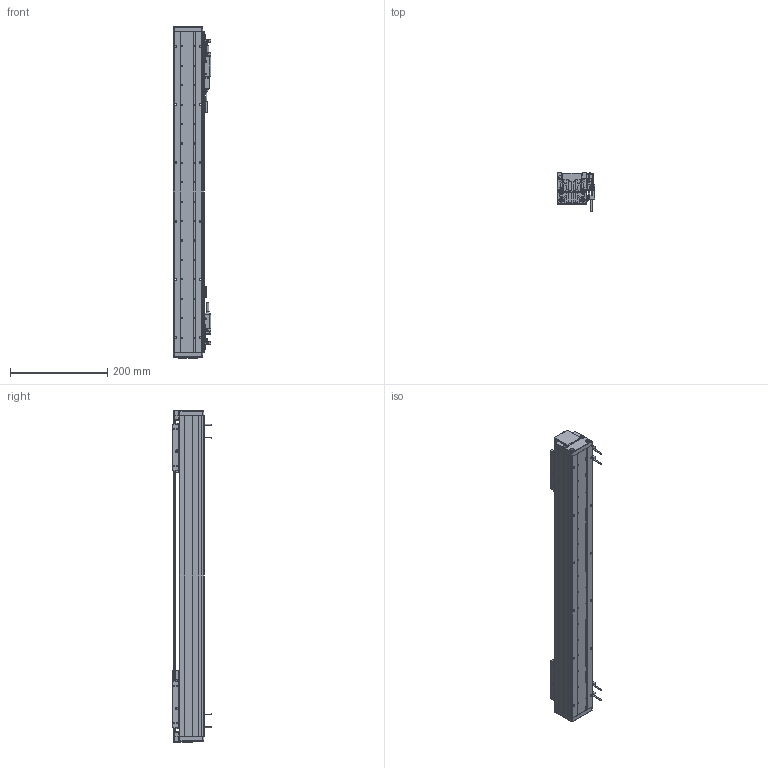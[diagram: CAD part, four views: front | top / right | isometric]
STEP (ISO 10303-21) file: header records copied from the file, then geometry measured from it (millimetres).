
FILE_DESCRIPTION (( 'STEP AP203' ), '1' );
FILE_NAME ('DA-A60-2-B1-T420-C010-0.2 眻盄萇儂.STEP', '2025-08-13T01:14:38', ( '' ), ( '' ), 'SwSTEP 2.0', 'SolidWorks 2019', '' );
FILE_SCHEMA (( 'CONFIG_CONTROL_DESIGN' ));
Length unit declared in the file: millimetre
Products named in the file (27): DA60-T-002-00  裔啣; DA-A60-2-B1-T420-C010-0.2 眻盄萇儂; 葩璃 XD-U-02  棠掑喜^DA-A60-2-B1-T60-C010-0.2-N; ｸｴｼ BAKM01-W030-C1-TP-0.2 ﾖｱﾏﾟｵ扈巐ｯﾗﾓ^DA-A60-2-B1-T60-C010-0.2-N; 葩璃 DMT-010 1米m 0.2M^DA-A60-2-B1-T60-C010-0.2-N; 葩璃 DA60-DMT-DTJ-00 黍杅芛盓殤^DA-A60-2-B1-T60-C010-0.2-N; 葩璃 AKM01-W030-TRL^DA-A60-2-B1-T60-C010-0.2-N; ｸｴｼ DA-A60-GYP-DMT-00 ｹ箏邵ﾐﾓｦﾆｬ^DA-A60-2-B1-T60-C010-0.2-N(ﾄｬﾈﾏ); 葩璃 DA60-HK-DP-01 結え^AU60-V 幗紩賑怢; 复件 DA60-HC-XJ-01 中间缓冲橡胶^DA-A60-2-B1-T60-C010-0.2-N; 复件 DA60-B1-GT-00 滑块钢轨^DA60-YT-B1-HT-B-01 一体化滑动台板; DA60-B1-HT-B-03 賑雄怢啣; AU60-L 菁釱絳寢; ｸｴｼ DA60-DMT-DTJ-ZJ-00 ﾖﾐｼ荼ﾁﾊﾍｷﾖｧｼﾜ^DA-A60-2-B1-T60-C010-0.2-N; 葩璃 PM-T45^DA-A60-2-B1-T60-C010-0.2-N; DA60-YT-B1-HT-B-01 珨极趙賑雄怢啣; AU60-V 幗紩賑怢; IU-AU60-L-00 菁釱(660); 复件 DA60-GT-T-00 底座钢轨^AU60-L 底座导轨; 复件 纯铜油杯 6x6mm^AU60-V 滚珠滑台; 葩璃 DA60-XJ-00 砎蝶結輸^DA-A60-2-B1-T60-C010-0.2-N; 葩璃 DA60-DG-H-N-00 傷裔^DA-A60-2-B1-T60-C010-0.2-N; DA60-YT-B1-HT-B-01 珨极趙賑雄怢啣-1; 葩璃 PM-Y65^DA-A60-2-B1-T60-C010-0.2-N; AU60-V 幗紩賑怢-1; 葩璃 鞠褒情蹟譫 M3^DA-A60-2-B1-T60-C010-0.2-N(GB_FASTENER_NUT_STNAB M3-C); ｸｴｼ DA60-GYP-ZJ-01 ﾖﾐｼ荵箏邵ﾐﾓｦﾆｬ^DA-A60-2-B1-T60-C010-0.2-N(ﾄｬﾈﾏ)
Assembly tree (51 placements, depth 4):
  DA-A60-2-B1-T420-C010-0.2 眻盄萇儂
    AU60-L 菁釱絳寢
      IU-AU60-L-00 菁釱(660)
      复件 DA60-GT-T-00 底座钢轨^AU60-L 底座导轨  x2
    AU60-V 幗紩賑怢
      DA60-YT-B1-HT-B-01 珨极趙賑雄怢啣
        DA60-B1-HT-B-03 賑雄怢啣
        复件 DA60-B1-GT-00 滑块钢轨^DA60-YT-B1-HT-B-01 一体化滑动台板  x2
      葩璃 DA60-HK-DP-01 結え^AU60-V 幗紩賑怢  x2
      复件 纯铜油杯 6x6mm^AU60-V 滚珠滑台
    AU60-V 幗紩賑怢-1
      DA60-YT-B1-HT-B-01 珨极趙賑雄怢啣-1
        DA60-B1-HT-B-03 賑雄怢啣
        复件 DA60-B1-GT-00 滑块钢轨^DA60-YT-B1-HT-B-01 一体化滑动台板  x2
      葩璃 DA60-HK-DP-01 結え^AU60-V 幗紩賑怢  x2
      复件 纯铜油杯 6x6mm^AU60-V 滚珠滑台
    ｸｴｼ DA60-DMT-DTJ-ZJ-00 ﾖﾐｼ荼ﾁﾊﾍｷﾖｧｼﾜ^DA-A60-2-B1-T60-C010-0.2-N
    葩璃 PM-Y65^DA-A60-2-B1-T60-C010-0.2-N
    复件 DA60-HC-XJ-01 中间缓冲橡胶^DA-A60-2-B1-T60-C010-0.2-N  x2
    ｸｴｼ DA60-GYP-ZJ-01 ﾖﾐｼ荵箏邵ﾐﾓｦﾆｬ^DA-A60-2-B1-T60-C010-0.2-N(ﾄｬﾈﾏ)
    ｸｴｼ DA-A60-GYP-DMT-00 ｹ箏邵ﾐﾓｦﾆｬ^DA-A60-2-B1-T60-C010-0.2-N(ﾄｬﾈﾏ)  x2
    葩璃 DA60-DMT-DTJ-00 黍杅芛盓殤^DA-A60-2-B1-T60-C010-0.2-N
    葩璃 DMT-010 1米m 0.2M^DA-A60-2-B1-T60-C010-0.2-N  x2
    ｸｴｼ BAKM01-W030-C1-TP-0.2 ﾖｱﾏﾟｵ扈巐ｯﾗﾓ^DA-A60-2-B1-T60-C010-0.2-N  x2
    葩璃 DA60-XJ-00 砎蝶結輸^DA-A60-2-B1-T60-C010-0.2-N  x2
    葩璃 DA60-DG-H-N-00 傷裔^DA-A60-2-B1-T60-C010-0.2-N  x2
    DA60-T-002-00  裔啣
    葩璃 AKM01-W030-TRL^DA-A60-2-B1-T60-C010-0.2-N
    葩璃 PM-T45^DA-A60-2-B1-T60-C010-0.2-N  x4
    葩璃 XD-U-02  棠掑喜^DA-A60-2-B1-T60-C010-0.2-N
    葩璃 鞠褒情蹟譫 M3^DA-A60-2-B1-T60-C010-0.2-N(GB_FASTENER_NUT_STNAB M3-C)  x8
Bounding box: 76.95 x 80 x 684 mm (x, y, z)
Volume: 1588121.9 mm3; surface area: 575999.6 mm2
Topology: 57 solids, 61 shells, 3720 faces, 9485 edges, 5788 vertices
Faces by surface type: plane 1434, cylinder 1338, bspline 592, cone 342, torus 12, sphere 2
Entity records: 82037 total; most frequent: CARTESIAN_POINT 25242, ORIENTED_EDGE 11524, DIRECTION 10551, EDGE_CURVE 5762, AXIS2_PLACEMENT_3D 3671, VERTEX_POINT 3627, LINE 3209, VECTOR 3209
